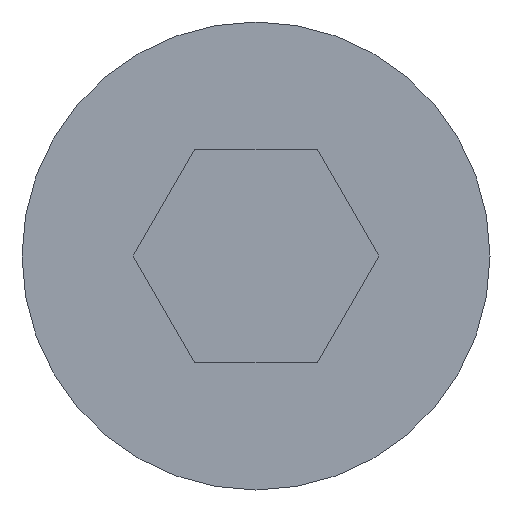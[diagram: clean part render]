
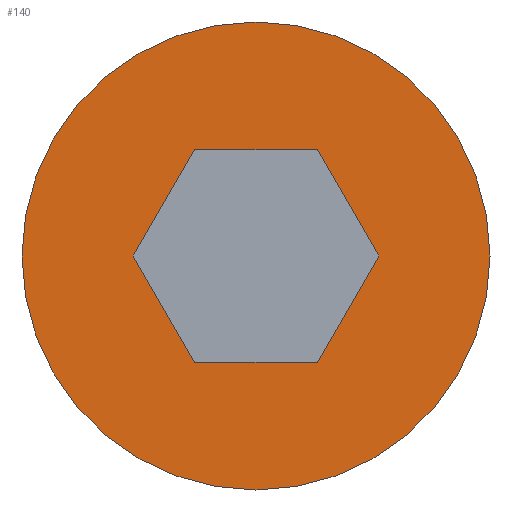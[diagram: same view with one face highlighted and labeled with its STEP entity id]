
A CAD part, front view. The second image highlights one B-rep face of the part: STEP entity #140.
In plain terms, the highlighted planar face has unit normal (0, -1, 0).
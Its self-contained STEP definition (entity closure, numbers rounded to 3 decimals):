
#24 = VERTEX_POINT('',#25);
#25 = CARTESIAN_POINT('',(-8.25,-24.4,-3.7));
#32 = CYLINDRICAL_SURFACE('',#33,2.75);
#33 = AXIS2_PLACEMENT_3D('',#34,#35,#36);
#34 = CARTESIAN_POINT('',(-11.,-21.4,-3.7));
#35 = DIRECTION('',(-0.,1.,-0.));
#36 = DIRECTION('',(1.,0.,0.));
#51 = EDGE_CURVE('',#24,#24,#52,.T.);
#52 = SURFACE_CURVE('',#53,(#58,#65),.PCURVE_S1.);
#53 = CIRCLE('',#54,2.75);
#54 = AXIS2_PLACEMENT_3D('',#55,#56,#57);
#55 = CARTESIAN_POINT('',(-11.,-24.4,-3.7));
#56 = DIRECTION('',(0.,-1.,0.));
#57 = DIRECTION('',(1.,0.,0.));
#58 = PCURVE('',#32,#59);
#59 = DEFINITIONAL_REPRESENTATION('',(#60),#64);
#60 = LINE('',#61,#62);
#61 = CARTESIAN_POINT('',(-0.,-3.));
#62 = VECTOR('',#63,1.);
#63 = DIRECTION('',(-1.,0.));
#64 = ( GEOMETRIC_REPRESENTATION_CONTEXT(2) 
PARAMETRIC_REPRESENTATION_CONTEXT() REPRESENTATION_CONTEXT('2D SPACE',''
  ) );
#65 = PCURVE('',#66,#71);
#66 = PLANE('',#67);
#67 = AXIS2_PLACEMENT_3D('',#68,#69,#70);
#68 = CARTESIAN_POINT('',(-11.,-24.4,-3.7));
#69 = DIRECTION('',(-0.,-1.,-0.));
#70 = DIRECTION('',(0.,0.,-1.));
#71 = DEFINITIONAL_REPRESENTATION('',(#72),#76);
#72 = CIRCLE('',#73,2.75);
#73 = AXIS2_PLACEMENT_2D('',#74,#75);
#74 = CARTESIAN_POINT('',(0.,0.));
#75 = DIRECTION('',(0.,1.));
#76 = ( GEOMETRIC_REPRESENTATION_CONTEXT(2) 
PARAMETRIC_REPRESENTATION_CONTEXT() REPRESENTATION_CONTEXT('2D SPACE',''
  ) );
#140 = ADVANCED_FACE('',(#141,#144),#66,.T.);
#141 = FACE_BOUND('',#142,.T.);
#142 = EDGE_LOOP('',(#143));
#143 = ORIENTED_EDGE('',*,*,#51,.T.);
#144 = FACE_BOUND('',#145,.T.);
#145 = EDGE_LOOP('',(#146,#174,#200,#226,#252,#278));
#146 = ORIENTED_EDGE('',*,*,#147,.T.);
#147 = EDGE_CURVE('',#148,#150,#152,.T.);
#148 = VERTEX_POINT('',#149);
#149 = CARTESIAN_POINT('',(-11.722,-24.4,-2.45));
#150 = VERTEX_POINT('',#151);
#151 = CARTESIAN_POINT('',(-10.278,-24.4,-2.45));
#152 = SURFACE_CURVE('',#153,(#157,#163),.PCURVE_S1.);
#153 = LINE('',#154,#155);
#154 = CARTESIAN_POINT('',(-10.639,-24.4,-2.45));
#155 = VECTOR('',#156,1.);
#156 = DIRECTION('',(1.,0.,0.));
#157 = PCURVE('',#66,#158);
#158 = DEFINITIONAL_REPRESENTATION('',(#159),#162);
#159 = B_SPLINE_CURVE_WITH_KNOTS('',1,(#160,#161),.UNSPECIFIED.,.F.,.F.,
  (2,2),(-1.083,0.361),.PIECEWISE_BEZIER_KNOTS.);
#160 = CARTESIAN_POINT('',(-1.25,-0.722));
#161 = CARTESIAN_POINT('',(-1.25,0.722));
#162 = ( GEOMETRIC_REPRESENTATION_CONTEXT(2) 
PARAMETRIC_REPRESENTATION_CONTEXT() REPRESENTATION_CONTEXT('2D SPACE',''
  ) );
#163 = PCURVE('',#164,#169);
#164 = PLANE('',#165);
#165 = AXIS2_PLACEMENT_3D('',#166,#167,#168);
#166 = CARTESIAN_POINT('',(-10.278,-22.8,-2.45));
#167 = DIRECTION('',(0.,-0.,-1.));
#168 = DIRECTION('',(-1.,0.,0.));
#169 = DEFINITIONAL_REPRESENTATION('',(#170),#173);
#170 = B_SPLINE_CURVE_WITH_KNOTS('',1,(#171,#172),.UNSPECIFIED.,.F.,.F.,
  (2,2),(-1.083,0.361),.PIECEWISE_BEZIER_KNOTS.);
#171 = CARTESIAN_POINT('',(1.443,-1.6));
#172 = CARTESIAN_POINT('',(0.,-1.6));
#173 = ( GEOMETRIC_REPRESENTATION_CONTEXT(2) 
PARAMETRIC_REPRESENTATION_CONTEXT() REPRESENTATION_CONTEXT('2D SPACE',''
  ) );
#174 = ORIENTED_EDGE('',*,*,#175,.T.);
#175 = EDGE_CURVE('',#150,#176,#178,.T.);
#176 = VERTEX_POINT('',#177);
#177 = CARTESIAN_POINT('',(-9.557,-24.4,-3.7));
#178 = SURFACE_CURVE('',#179,(#183,#189),.PCURVE_S1.);
#179 = LINE('',#180,#181);
#180 = CARTESIAN_POINT('',(-9.737,-24.4,-3.388));
#181 = VECTOR('',#182,1.);
#182 = DIRECTION('',(0.5,0.,-0.866));
#183 = PCURVE('',#66,#184);
#184 = DEFINITIONAL_REPRESENTATION('',(#185),#188);
#185 = B_SPLINE_CURVE_WITH_KNOTS('',1,(#186,#187),.UNSPECIFIED.,.F.,.F.,
  (2,2),(-1.083,0.361),.PIECEWISE_BEZIER_KNOTS.);
#186 = CARTESIAN_POINT('',(-1.25,0.722));
#187 = CARTESIAN_POINT('',(0.,1.443));
#188 = ( GEOMETRIC_REPRESENTATION_CONTEXT(2) 
PARAMETRIC_REPRESENTATION_CONTEXT() REPRESENTATION_CONTEXT('2D SPACE',''
  ) );
#189 = PCURVE('',#190,#195);
#190 = PLANE('',#191);
#191 = AXIS2_PLACEMENT_3D('',#192,#193,#194);
#192 = CARTESIAN_POINT('',(-9.557,-22.8,-3.7));
#193 = DIRECTION('',(-0.866,-0.,-0.5));
#194 = DIRECTION('',(-0.5,0.,0.866));
#195 = DEFINITIONAL_REPRESENTATION('',(#196),#199);
#196 = B_SPLINE_CURVE_WITH_KNOTS('',1,(#197,#198),.UNSPECIFIED.,.F.,.F.,
  (2,2),(-1.083,0.361),.PIECEWISE_BEZIER_KNOTS.);
#197 = CARTESIAN_POINT('',(1.443,-1.6));
#198 = CARTESIAN_POINT('',(0.,-1.6));
#199 = ( GEOMETRIC_REPRESENTATION_CONTEXT(2) 
PARAMETRIC_REPRESENTATION_CONTEXT() REPRESENTATION_CONTEXT('2D SPACE',''
  ) );
#200 = ORIENTED_EDGE('',*,*,#201,.T.);
#201 = EDGE_CURVE('',#176,#202,#204,.T.);
#202 = VERTEX_POINT('',#203);
#203 = CARTESIAN_POINT('',(-10.278,-24.4,-4.95));
#204 = SURFACE_CURVE('',#205,(#209,#215),.PCURVE_S1.);
#205 = LINE('',#206,#207);
#206 = CARTESIAN_POINT('',(-10.098,-24.4,-4.638));
#207 = VECTOR('',#208,1.);
#208 = DIRECTION('',(-0.5,0.,-0.866));
#209 = PCURVE('',#66,#210);
#210 = DEFINITIONAL_REPRESENTATION('',(#211),#214);
#211 = B_SPLINE_CURVE_WITH_KNOTS('',1,(#212,#213),.UNSPECIFIED.,.F.,.F.,
  (2,2),(-1.083,0.361),.PIECEWISE_BEZIER_KNOTS.);
#212 = CARTESIAN_POINT('',(0.,1.443));
#213 = CARTESIAN_POINT('',(1.25,0.722));
#214 = ( GEOMETRIC_REPRESENTATION_CONTEXT(2) 
PARAMETRIC_REPRESENTATION_CONTEXT() REPRESENTATION_CONTEXT('2D SPACE',''
  ) );
#215 = PCURVE('',#216,#221);
#216 = PLANE('',#217);
#217 = AXIS2_PLACEMENT_3D('',#218,#219,#220);
#218 = CARTESIAN_POINT('',(-10.278,-22.8,-4.95));
#219 = DIRECTION('',(-0.866,0.,0.5));
#220 = DIRECTION('',(0.5,0.,0.866));
#221 = DEFINITIONAL_REPRESENTATION('',(#222),#225);
#222 = B_SPLINE_CURVE_WITH_KNOTS('',1,(#223,#224),.UNSPECIFIED.,.F.,.F.,
  (2,2),(-1.083,0.361),.PIECEWISE_BEZIER_KNOTS.);
#223 = CARTESIAN_POINT('',(1.443,-1.6));
#224 = CARTESIAN_POINT('',(0.,-1.6));
#225 = ( GEOMETRIC_REPRESENTATION_CONTEXT(2) 
PARAMETRIC_REPRESENTATION_CONTEXT() REPRESENTATION_CONTEXT('2D SPACE',''
  ) );
#226 = ORIENTED_EDGE('',*,*,#227,.T.);
#227 = EDGE_CURVE('',#202,#228,#230,.T.);
#228 = VERTEX_POINT('',#229);
#229 = CARTESIAN_POINT('',(-11.722,-24.4,-4.95));
#230 = SURFACE_CURVE('',#231,(#235,#241),.PCURVE_S1.);
#231 = LINE('',#232,#233);
#232 = CARTESIAN_POINT('',(-11.361,-24.4,-4.95));
#233 = VECTOR('',#234,1.);
#234 = DIRECTION('',(-1.,0.,0.));
#235 = PCURVE('',#66,#236);
#236 = DEFINITIONAL_REPRESENTATION('',(#237),#240);
#237 = B_SPLINE_CURVE_WITH_KNOTS('',1,(#238,#239),.UNSPECIFIED.,.F.,.F.,
  (2,2),(-1.083,0.361),.PIECEWISE_BEZIER_KNOTS.);
#238 = CARTESIAN_POINT('',(1.25,0.722));
#239 = CARTESIAN_POINT('',(1.25,-0.722));
#240 = ( GEOMETRIC_REPRESENTATION_CONTEXT(2) 
PARAMETRIC_REPRESENTATION_CONTEXT() REPRESENTATION_CONTEXT('2D SPACE',''
  ) );
#241 = PCURVE('',#242,#247);
#242 = PLANE('',#243);
#243 = AXIS2_PLACEMENT_3D('',#244,#245,#246);
#244 = CARTESIAN_POINT('',(-11.722,-22.8,-4.95));
#245 = DIRECTION('',(0.,0.,1.));
#246 = DIRECTION('',(1.,0.,0.));
#247 = DEFINITIONAL_REPRESENTATION('',(#248),#251);
#248 = B_SPLINE_CURVE_WITH_KNOTS('',1,(#249,#250),.UNSPECIFIED.,.F.,.F.,
  (2,2),(-1.083,0.361),.PIECEWISE_BEZIER_KNOTS.);
#249 = CARTESIAN_POINT('',(1.443,-1.6));
#250 = CARTESIAN_POINT('',(0.,-1.6));
#251 = ( GEOMETRIC_REPRESENTATION_CONTEXT(2) 
PARAMETRIC_REPRESENTATION_CONTEXT() REPRESENTATION_CONTEXT('2D SPACE',''
  ) );
#252 = ORIENTED_EDGE('',*,*,#253,.T.);
#253 = EDGE_CURVE('',#228,#254,#256,.T.);
#254 = VERTEX_POINT('',#255);
#255 = CARTESIAN_POINT('',(-12.443,-24.4,-3.7));
#256 = SURFACE_CURVE('',#257,(#261,#267),.PCURVE_S1.);
#257 = LINE('',#258,#259);
#258 = CARTESIAN_POINT('',(-12.263,-24.4,-4.013));
#259 = VECTOR('',#260,1.);
#260 = DIRECTION('',(-0.5,0.,0.866));
#261 = PCURVE('',#66,#262);
#262 = DEFINITIONAL_REPRESENTATION('',(#263),#266);
#263 = B_SPLINE_CURVE_WITH_KNOTS('',1,(#264,#265),.UNSPECIFIED.,.F.,.F.,
  (2,2),(-1.083,0.361),.PIECEWISE_BEZIER_KNOTS.);
#264 = CARTESIAN_POINT('',(1.25,-0.722));
#265 = CARTESIAN_POINT('',(0.,-1.443));
#266 = ( GEOMETRIC_REPRESENTATION_CONTEXT(2) 
PARAMETRIC_REPRESENTATION_CONTEXT() REPRESENTATION_CONTEXT('2D SPACE',''
  ) );
#267 = PCURVE('',#268,#273);
#268 = PLANE('',#269);
#269 = AXIS2_PLACEMENT_3D('',#270,#271,#272);
#270 = CARTESIAN_POINT('',(-12.443,-22.8,-3.7));
#271 = DIRECTION('',(0.866,0.,0.5));
#272 = DIRECTION('',(0.5,0.,-0.866));
#273 = DEFINITIONAL_REPRESENTATION('',(#274),#277);
#274 = B_SPLINE_CURVE_WITH_KNOTS('',1,(#275,#276),.UNSPECIFIED.,.F.,.F.,
  (2,2),(-1.083,0.361),.PIECEWISE_BEZIER_KNOTS.);
#275 = CARTESIAN_POINT('',(1.443,-1.6));
#276 = CARTESIAN_POINT('',(0.,-1.6));
#277 = ( GEOMETRIC_REPRESENTATION_CONTEXT(2) 
PARAMETRIC_REPRESENTATION_CONTEXT() REPRESENTATION_CONTEXT('2D SPACE',''
  ) );
#278 = ORIENTED_EDGE('',*,*,#279,.T.);
#279 = EDGE_CURVE('',#254,#148,#280,.T.);
#280 = SURFACE_CURVE('',#281,(#285,#291),.PCURVE_S1.);
#281 = LINE('',#282,#283);
#282 = CARTESIAN_POINT('',(-11.902,-24.4,-2.763));
#283 = VECTOR('',#284,1.);
#284 = DIRECTION('',(0.5,-0.,0.866));
#285 = PCURVE('',#66,#286);
#286 = DEFINITIONAL_REPRESENTATION('',(#287),#290);
#287 = B_SPLINE_CURVE_WITH_KNOTS('',1,(#288,#289),.UNSPECIFIED.,.F.,.F.,
  (2,2),(-1.083,0.361),.PIECEWISE_BEZIER_KNOTS.);
#288 = CARTESIAN_POINT('',(0.,-1.443));
#289 = CARTESIAN_POINT('',(-1.25,-0.722));
#290 = ( GEOMETRIC_REPRESENTATION_CONTEXT(2) 
PARAMETRIC_REPRESENTATION_CONTEXT() REPRESENTATION_CONTEXT('2D SPACE',''
  ) );
#291 = PCURVE('',#292,#297);
#292 = PLANE('',#293);
#293 = AXIS2_PLACEMENT_3D('',#294,#295,#296);
#294 = CARTESIAN_POINT('',(-11.722,-22.8,-2.45));
#295 = DIRECTION('',(0.866,0.,-0.5));
#296 = DIRECTION('',(-0.5,-0.,-0.866));
#297 = DEFINITIONAL_REPRESENTATION('',(#298),#301);
#298 = B_SPLINE_CURVE_WITH_KNOTS('',1,(#299,#300),.UNSPECIFIED.,.F.,.F.,
  (2,2),(-1.083,0.361),.PIECEWISE_BEZIER_KNOTS.);
#299 = CARTESIAN_POINT('',(1.443,-1.6));
#300 = CARTESIAN_POINT('',(0.,-1.6));
#301 = ( GEOMETRIC_REPRESENTATION_CONTEXT(2) 
PARAMETRIC_REPRESENTATION_CONTEXT() REPRESENTATION_CONTEXT('2D SPACE',''
  ) );
